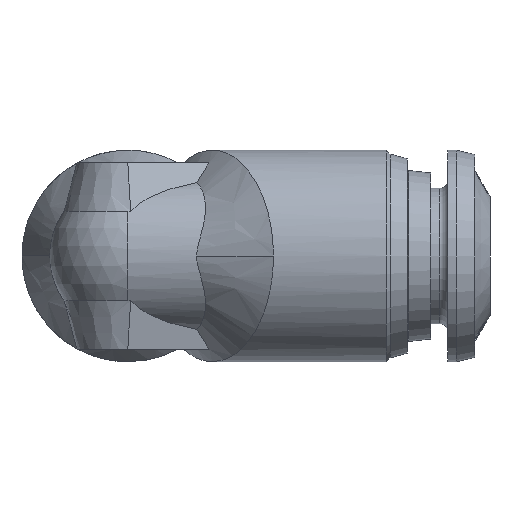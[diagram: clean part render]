
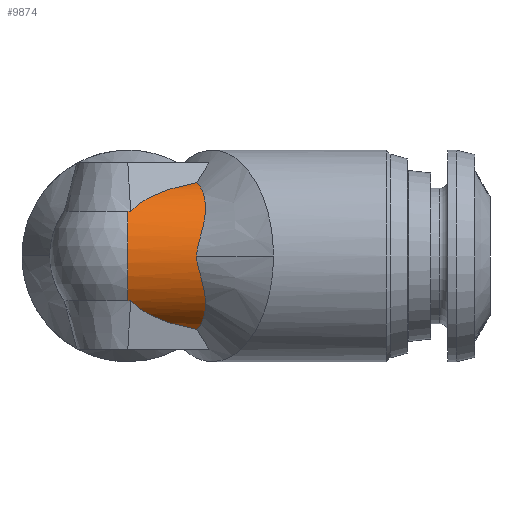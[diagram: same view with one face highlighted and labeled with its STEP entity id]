
A CAD part, left-side view. The second image highlights one B-rep face of the part: STEP entity #9874.
In plain terms, the highlighted cylindrical face has radius 4.6 mm (diameter 9.2 mm), a partial arc.
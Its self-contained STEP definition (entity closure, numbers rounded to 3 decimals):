
#83 = CARTESIAN_POINT ( 'NONE',  ( 193.334, -39.116, -22.358 ) ) ;
#4355 = CARTESIAN_POINT ( 'NONE',  ( 195.362, -43.274, -29.265 ) ) ;
#4356 = CARTESIAN_POINT ( 'NONE',  ( 195.575, -43.194, -29.34 ) ) ;
#4368 = CARTESIAN_POINT ( 'NONE',  ( 195.148, -43.349, -29.172 ) ) ;
#4369 = CARTESIAN_POINT ( 'NONE',  ( 194.739, -43.48, -28.955 ) ) ;
#4370 = CARTESIAN_POINT ( 'NONE',  ( 194.542, -43.537, -28.831 ) ) ;
#4371 = CARTESIAN_POINT ( 'NONE',  ( 194.163, -43.628, -28.549 ) ) ;
#4372 = CARTESIAN_POINT ( 'NONE',  ( 193.98, -43.662, -28.389 ) ) ;
#4373 = CARTESIAN_POINT ( 'NONE',  ( 193.646, -43.703, -28.048 ) ) ;
#4374 = CARTESIAN_POINT ( 'NONE',  ( 193.492, -43.709, -27.865 ) ) ;
#4375 = CARTESIAN_POINT ( 'NONE',  ( 193.214, -43.691, -27.473 ) ) ;
#4376 = CARTESIAN_POINT ( 'NONE',  ( 193.088, -43.667, -27.264 ) ) ;
#4377 = CARTESIAN_POINT ( 'NONE',  ( 192.876, -43.591, -26.839 ) ) ;
#4378 = CARTESIAN_POINT ( 'NONE',  ( 192.788, -43.539, -26.621 ) ) ;
#4379 = CARTESIAN_POINT ( 'NONE',  ( 192.646, -43.419, -26.174 ) ) ;
#4380 = CARTESIAN_POINT ( 'NONE',  ( 192.592, -43.35, -25.947 ) ) ;
#4381 = CARTESIAN_POINT ( 'NONE',  ( 192.519, -43.231, -25.485 ) ) ;
#4382 = CARTESIAN_POINT ( 'NONE',  ( 192.5, -43.183, -25.246 ) ) ;
#4383 = CARTESIAN_POINT ( 'NONE',  ( 192.5, -43.183, -25. ) ) ;
#4733 = EDGE_LOOP ( 'NONE', ( #14642, #14643, #14644, #14645, #14646, #14647, #14648 ) ) ;
#8546 = B_SPLINE_CURVE_WITH_KNOTS ( 'NONE', 3,
 ( #9288, #9292, #9299, #9300, #9301, #9302, #9303, #9304, #9305, #9306, #9307, #9308, #9309, #9310, #9311, #9312, #9313, #9314 ),
 .UNSPECIFIED., .F., .F.,
 ( 4, 2, 2, 2, 2, 2, 2, 2, 4 ),
 ( 0., 0.001, 0.001, 0.002, 0.003, 0.004, 0.004, 0.005, 0.006 ),
 .UNSPECIFIED. ) ;
#8547 =( BOUNDED_CURVE ( )  B_SPLINE_CURVE ( 3, ( #9316, #9315, #9294, #9317 ),
 .UNSPECIFIED., .F., .F. ) 
 B_SPLINE_CURVE_WITH_KNOTS ( ( 4, 4 ),
 ( 5.336, 5.954 ),
 .UNSPECIFIED. ) 
 CURVE ( )  GEOMETRIC_REPRESENTATION_ITEM ( )  RATIONAL_B_SPLINE_CURVE ( ( 1., 0.968, 0.968, 1. ) ) 
 REPRESENTATION_ITEM ( '' )  );
#8548 =( BOUNDED_CURVE ( )  B_SPLINE_CURVE ( 3, ( #9319, #9298, #9320, #9321 ),
 .UNSPECIFIED., .F., .F. ) 
 B_SPLINE_CURVE_WITH_KNOTS ( ( 4, 4 ),
 ( 5.336, 5.954 ),
 .UNSPECIFIED. ) 
 CURVE ( )  GEOMETRIC_REPRESENTATION_ITEM ( )  RATIONAL_B_SPLINE_CURVE ( ( 1., 0.968, 0.968, 1. ) ) 
 REPRESENTATION_ITEM ( '' )  );
#8549 = B_SPLINE_CURVE_WITH_KNOTS ( 'NONE', 3,
 ( #9297, #9318, #9323, #9324 ),
 .UNSPECIFIED., .F., .F.,
 ( 4, 4 ),
 ( 0., 0. ),
 .UNSPECIFIED. ) ;
#8550 = B_SPLINE_CURVE_WITH_KNOTS ( 'NONE', 3,
 ( #9325, #9326, #9330, #9331 ),
 .UNSPECIFIED., .F., .F.,
 ( 4, 4 ),
 ( 0., 0. ),
 .UNSPECIFIED. ) ;
#8809 = B_SPLINE_CURVE_WITH_KNOTS ( 'NONE', 3,
 ( #4356, #4355, #4368, #4369, #4370, #4371, #4372, #4373, #4374, #4375, #4376, #4377, #4378, #4379, #4380, #4381, #4382, #4383 ),
 .UNSPECIFIED., .F., .F.,
 ( 4, 2, 2, 2, 2, 2, 2, 2, 4 ),
 ( 0.024, 0.025, 0.026, 0.027, 0.027, 0.028, 0.029, 0.029, 0.03 ),
 .UNSPECIFIED. ) ;
#8990 = EDGE_CURVE ( 'NONE', #12028, #19735, #8546, .T. ) ;
#8991 = EDGE_CURVE ( 'NONE', #12025, #19599, #8547, .T. ) ;
#8992 = EDGE_CURVE ( 'NONE', #19735, #19603, #8548, .T. ) ;
#8993 = EDGE_CURVE ( 'NONE', #19603, #12200, #8549, .T. ) ;
#8994 = EDGE_CURVE ( 'NONE', #19737, #12200, #13360, .T. ) ;
#8995 = EDGE_CURVE ( 'NONE', #19599, #19737, #8550, .T. ) ;
#9288 = CARTESIAN_POINT ( 'NONE',  ( 192.5, -43.183, -25. ) ) ;
#9292 = CARTESIAN_POINT ( 'NONE',  ( 192.5, -43.183, -24.753 ) ) ;
#9294 = CARTESIAN_POINT ( 'NONE',  ( 193.896, -40.016, -28.439 ) ) ;
#9297 = CARTESIAN_POINT ( 'NONE',  ( 193.34, -39.287, -22.349 ) ) ;
#9298 = CARTESIAN_POINT ( 'NONE',  ( 194.665, -41.361, -20.98 ) ) ;
#9299 = CARTESIAN_POINT ( 'NONE',  ( 192.519, -43.23, -24.518 ) ) ;
#9300 = CARTESIAN_POINT ( 'NONE',  ( 192.591, -43.349, -24.057 ) ) ;
#9301 = CARTESIAN_POINT ( 'NONE',  ( 192.645, -43.418, -23.829 ) ) ;
#9302 = CARTESIAN_POINT ( 'NONE',  ( 192.787, -43.538, -23.384 ) ) ;
#9303 = CARTESIAN_POINT ( 'NONE',  ( 192.874, -43.59, -23.167 ) ) ;
#9304 = CARTESIAN_POINT ( 'NONE',  ( 193.085, -43.666, -22.742 ) ) ;
#9305 = CARTESIAN_POINT ( 'NONE',  ( 193.21, -43.691, -22.532 ) ) ;
#9306 = CARTESIAN_POINT ( 'NONE',  ( 193.489, -43.709, -22.14 ) ) ;
#9307 = CARTESIAN_POINT ( 'NONE',  ( 193.642, -43.703, -21.957 ) ) ;
#9308 = CARTESIAN_POINT ( 'NONE',  ( 193.977, -43.663, -21.614 ) ) ;
#9309 = CARTESIAN_POINT ( 'NONE',  ( 194.16, -43.629, -21.454 ) ) ;
#9310 = CARTESIAN_POINT ( 'NONE',  ( 194.539, -43.537, -21.171 ) ) ;
#9311 = CARTESIAN_POINT ( 'NONE',  ( 194.737, -43.481, -21.046 ) ) ;
#9312 = CARTESIAN_POINT ( 'NONE',  ( 195.149, -43.349, -20.828 ) ) ;
#9313 = CARTESIAN_POINT ( 'NONE',  ( 195.361, -43.274, -20.735 ) ) ;
#9314 = CARTESIAN_POINT ( 'NONE',  ( 195.575, -43.194, -20.66 ) ) ;
#9315 = CARTESIAN_POINT ( 'NONE',  ( 194.665, -41.361, -29.02 ) ) ;
#9316 = CARTESIAN_POINT ( 'NONE',  ( 195.575, -43.194, -29.34 ) ) ;
#9317 = CARTESIAN_POINT ( 'NONE',  ( 193.34, -39.287, -27.651 ) ) ;
#9318 = CARTESIAN_POINT ( 'NONE',  ( 193.336, -39.231, -22.355 ) ) ;
#9319 = CARTESIAN_POINT ( 'NONE',  ( 195.575, -43.194, -20.66 ) ) ;
#9320 = CARTESIAN_POINT ( 'NONE',  ( 193.896, -40.016, -21.561 ) ) ;
#9321 = CARTESIAN_POINT ( 'NONE',  ( 193.34, -39.287, -22.349 ) ) ;
#9323 = CARTESIAN_POINT ( 'NONE',  ( 193.334, -39.174, -22.358 ) ) ;
#9324 = CARTESIAN_POINT ( 'NONE',  ( 193.334, -39.116, -22.358 ) ) ;
#9325 = CARTESIAN_POINT ( 'NONE',  ( 193.34, -39.287, -27.651 ) ) ;
#9326 = CARTESIAN_POINT ( 'NONE',  ( 193.336, -39.231, -27.645 ) ) ;
#9327 = CARTESIAN_POINT ( 'NONE',  ( 197.1, -39.116, -25. ) ) ;
#9328 = DIRECTION ( 'NONE',  ( 0., 1., 0. ) ) ;
#9329 = DIRECTION ( 'NONE',  ( 0., 0., 1. ) ) ;
#9330 = CARTESIAN_POINT ( 'NONE',  ( 193.334, -39.174, -27.642 ) ) ;
#9331 = CARTESIAN_POINT ( 'NONE',  ( 193.334, -39.116, -27.642 ) ) ;
#9874 = ADVANCED_FACE ( 'NONE', ( #9957 ), #9965, .T. ) ;
#9957 = FACE_OUTER_BOUND ( 'NONE', #4733, .T. ) ;
#9965 = CYLINDRICAL_SURFACE ( 'NONE', #13810, 4.6 ) ;
#10310 = CARTESIAN_POINT ( 'NONE',  ( 197.1, -35.429, -25. ) ) ;
#10311 = DIRECTION ( 'NONE',  ( 0., 1., 0. ) ) ;
#10319 = DIRECTION ( 'NONE',  ( 0., 0., 1. ) ) ;
#10571 = CARTESIAN_POINT ( 'NONE',  ( 195.575, -43.194, -29.34 ) ) ;
#10573 = CARTESIAN_POINT ( 'NONE',  ( 192.5, -43.183, -25. ) ) ;
#12025 = VERTEX_POINT ( 'NONE', #10571 ) ;
#12028 = VERTEX_POINT ( 'NONE', #10573 ) ;
#12200 = VERTEX_POINT ( 'NONE', #83 ) ;
#13360 = CIRCLE ( 'NONE', #15229, 4.6 ) ;
#13810 = AXIS2_PLACEMENT_3D ( 'NONE', #10310, #10311, #10319 ) ;
#14642 = ORIENTED_EDGE ( 'NONE', *, *, #8991, .F. ) ;
#14643 = ORIENTED_EDGE ( 'NONE', *, *, #16700, .T. ) ;
#14644 = ORIENTED_EDGE ( 'NONE', *, *, #8990, .T. ) ;
#14645 = ORIENTED_EDGE ( 'NONE', *, *, #8992, .T. ) ;
#14646 = ORIENTED_EDGE ( 'NONE', *, *, #8993, .T. ) ;
#14647 = ORIENTED_EDGE ( 'NONE', *, *, #8994, .F. ) ;
#14648 = ORIENTED_EDGE ( 'NONE', *, *, #8995, .F. ) ;
#15229 = AXIS2_PLACEMENT_3D ( 'NONE', #9327, #9328, #9329 ) ;
#15653 = CARTESIAN_POINT ( 'NONE',  ( 193.34, -39.287, -27.651 ) ) ;
#15656 = CARTESIAN_POINT ( 'NONE',  ( 193.34, -39.287, -22.349 ) ) ;
#15772 = CARTESIAN_POINT ( 'NONE',  ( 195.575, -43.194, -20.66 ) ) ;
#15774 = CARTESIAN_POINT ( 'NONE',  ( 193.334, -39.116, -27.642 ) ) ;
#16700 = EDGE_CURVE ( 'NONE', #12025, #12028, #8809, .T. ) ;
#19599 = VERTEX_POINT ( 'NONE', #15653 ) ;
#19603 = VERTEX_POINT ( 'NONE', #15656 ) ;
#19735 = VERTEX_POINT ( 'NONE', #15772 ) ;
#19737 = VERTEX_POINT ( 'NONE', #15774 ) ;
